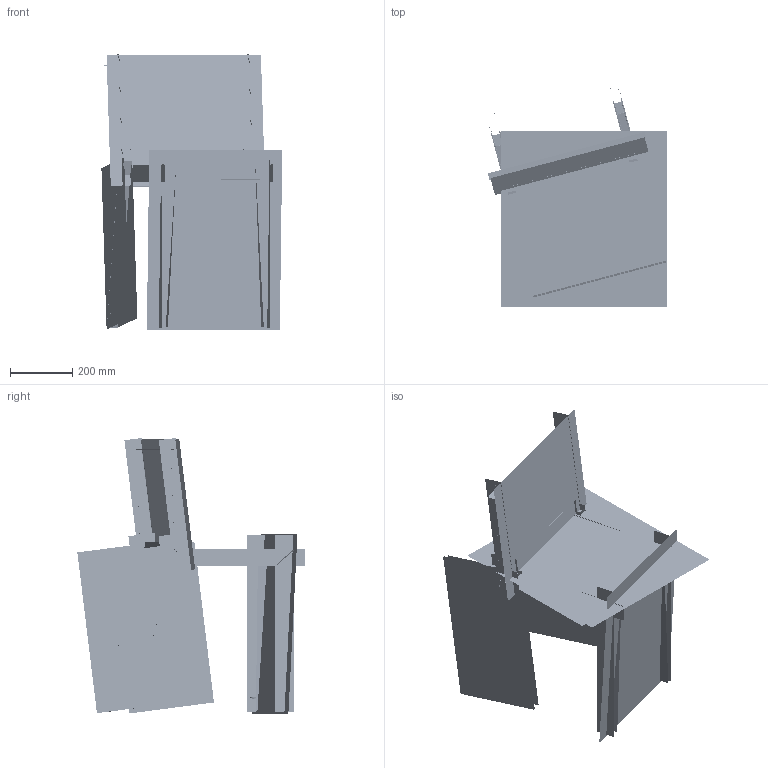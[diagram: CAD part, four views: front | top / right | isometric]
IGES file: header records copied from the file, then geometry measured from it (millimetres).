
Global section: file name: C:\Users\utente\Desktop\3d sito\ABCHAIR\abchair.igs; native system: Rhinoceros ( Mar  9 2011 ); preprocessor: Trout Lake IGES 012 Mar  9 2011; date: 170512.082634; units: millimetre
Bounding box: 582.25 x 736.92 x 887.04 mm (x, y, z)
Surface area: 3636584.7 mm2 (no closed solid volume)
Topology: 0 solids, 0 shells, 4863 faces, 38849 edges, 51152 vertices
Faces by surface type: bspline 4863
